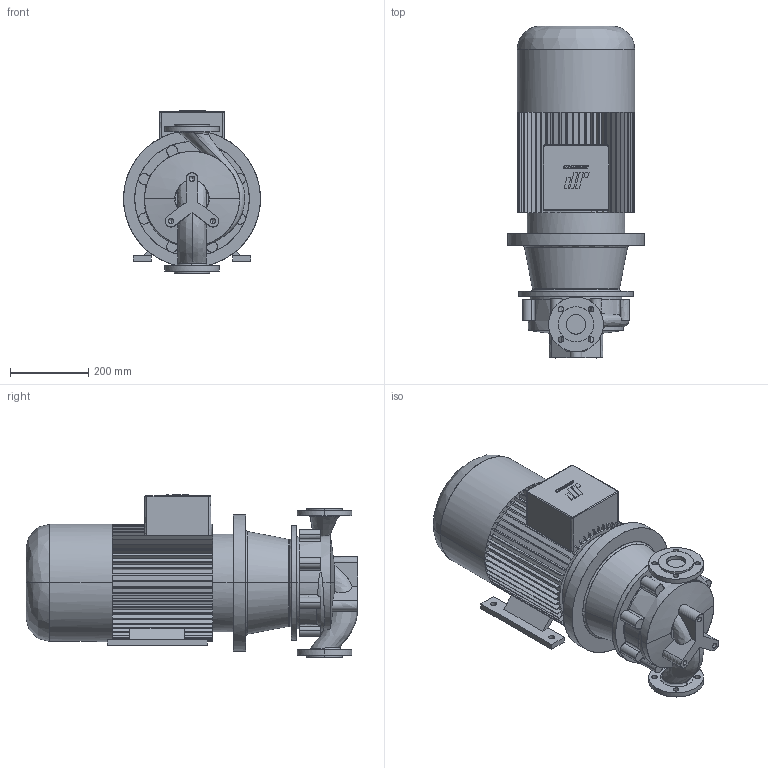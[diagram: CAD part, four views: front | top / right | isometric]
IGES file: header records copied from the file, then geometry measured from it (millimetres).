
Start section: CombiLine
Global section: file name: CLB_50-200_IEC160M.igs; native system:  By UGS Corp.; preprocessor: XPlus GENERIC/IGES 3.0; author: Stageplaats; organization: Johnson Pump Water B.V.; date: 20070713.131612; units: millimetre
Bounding box: 350 x 848.5 x 415 mm (x, y, z)
Surface area: 1601969.5 mm2 (no closed solid volume)
Topology: 0 solids, 0 shells, 578 faces, 3508 edges, 3502 vertices
Faces by surface type: bspline 578
